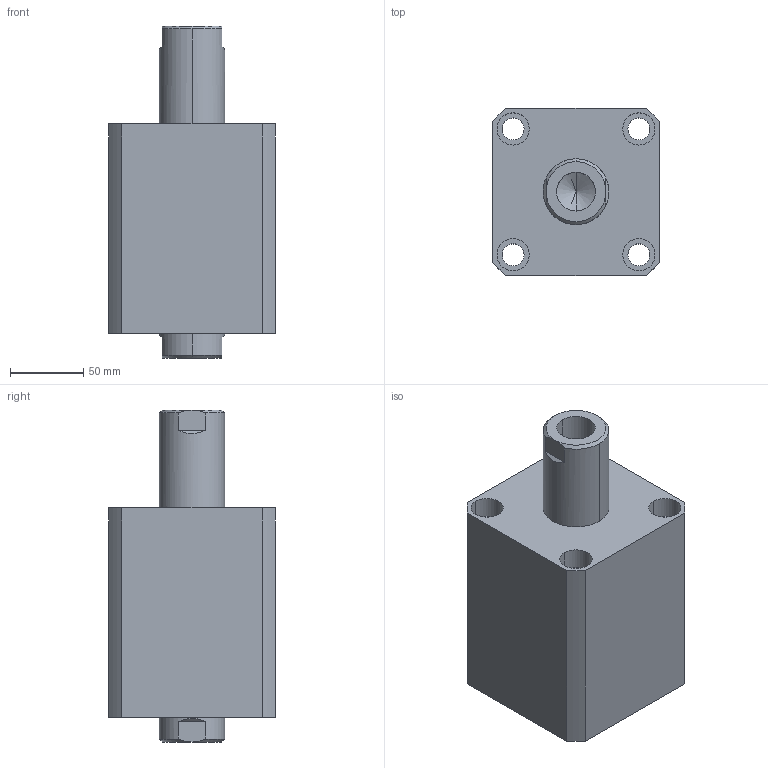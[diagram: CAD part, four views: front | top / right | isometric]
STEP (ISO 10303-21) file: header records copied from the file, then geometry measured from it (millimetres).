
FILE_DESCRIPTION (( 'STEP AP214' ), '1' );
FILE_NAME ('chtb-sw80x50n_asm.STEP', '2018-05-28T00:48:31', ( 'Windows' ), ( 'Microsoft' ), 'SwSTEP 2.0', 'SolidWorks 2015', '' );
FILE_SCHEMA (( 'AUTOMOTIVE_DESIGN' ));
Length unit declared in the file: millimetre
Products named in the file (4): CHTB-SW80X50NBT; CHTB-SD80X50NHSG; CHTB-SD80QG; chtb-sw80x50n_asm
Assembly tree (3 placements, depth 2):
  chtb-sw80x50n_asm
    CHTB-SD80QG
    CHTB-SD80X50NHSG
    CHTB-SW80X50NBT
Bounding box: 114 x 114 x 227 mm (x, y, z)
Volume: 1607176.8 mm3; surface area: 227612 mm2
Topology: 3 solids, 3 shells, 208 faces, 550 edges, 365 vertices
Faces by surface type: cylinder 109, plane 42, cone 25, torus 18, bspline 14
Entity records: 15645 total; most frequent: CARTESIAN_POINT 10539, ORIENTED_EDGE 1084, DIRECTION 970, EDGE_CURVE 542, AXIS2_PLACEMENT_3D 407, VERTEX_POINT 365, EDGE_LOOP 249, ADVANCED_FACE 208
